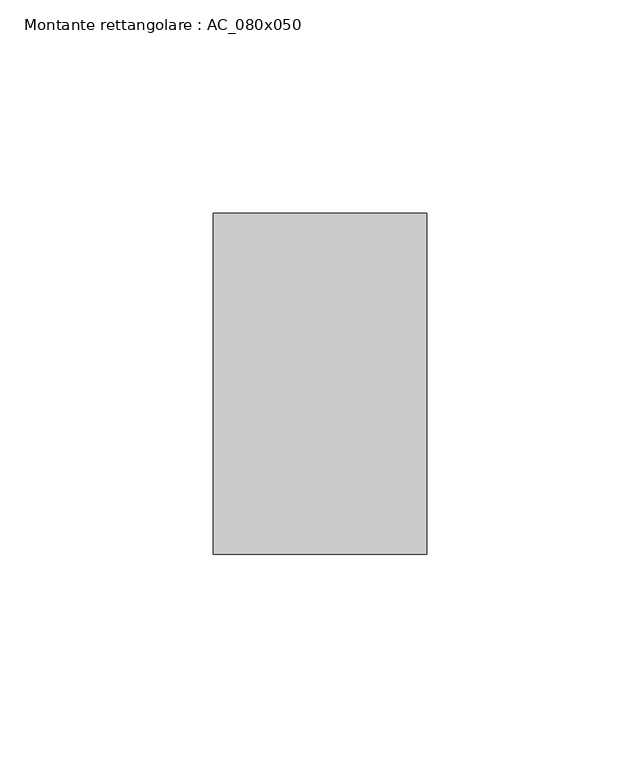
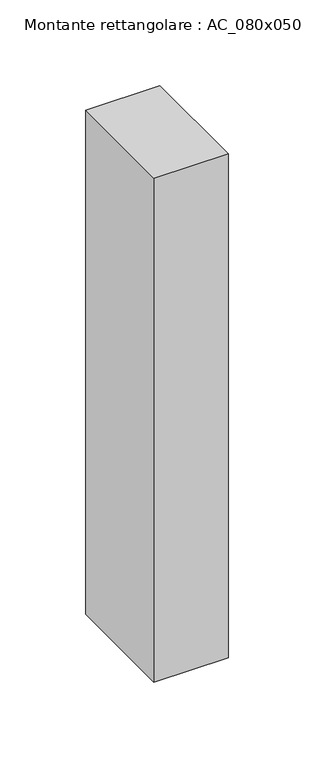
"""IFC4 building model written with IfcOpenShell, lengths in millimetres: member geometry, Montante rettangolare : AC_080x050."""

import ifcopenshell
import ifcopenshell.guid

model = None  # the IFC model being written
_history = None  # IfcOwnerHistory: only IFC2X3 demands one
_inside = {}  # id of a spatial element -> (the spatial element, [elements in it])
_under = {}  # id of a project, library or spatial element -> (it, [spatial elements below it])
_declared = {}  # id of a project -> (the project, [libraries it declares])
_typed = {}  # id of a type object -> (the type object, [elements of that type])
_made_of = {}  # id of a material, layer set ... -> (it, [elements and type objects made of it])


def new_model(schema):
    """Start an empty IFC model of exactly this schema.

    Asked for "IFC4X3", IfcOpenShell would pick the latest addendum, in which some entities
    have other attributes; the version numbers below select the first issue.
    IFC2X3 requires an IfcOwnerHistory on every rooted entity: one is made here for all.
    """
    global model, _history
    if schema == "IFC4X3":
        model = ifcopenshell.file(schema_version=(4, 3, 0, 0))
    else:
        model = ifcopenshell.file(schema=schema)
    _inside.clear()
    _under.clear()
    _declared.clear()
    _typed.clear()
    _made_of.clear()
    _history = None
    if model.schema == "IFC2X3":
        org = make("IfcOrganization", Name="unknown")
        user = make(
            "IfcPersonAndOrganization",
            ThePerson=make("IfcPerson", FamilyName="unknown"),
            TheOrganization=org,
        )
        app = make(
            "IfcApplication",
            ApplicationDeveloper=org,
            Version="unknown",
            ApplicationFullName="unknown",
            ApplicationIdentifier="unknown",
        )
        _history = make(
            "IfcOwnerHistory",
            OwningUser=user,
            OwningApplication=app,
            ChangeAction="ADDED",
            CreationDate=0,
        )
    return model


def make(cls, **values):
    """One entity of the class cls with the attributes given. An attribute that is None is left unset."""
    return model.create_entity(
        cls, **{name: value for name, value in values.items() if value is not None}
    )


def rooted(cls, **values):
    """An entity with a GlobalId (a new one), such as an element, a storey or a relation."""
    return make(cls, GlobalId=ifcopenshell.guid.new(), OwnerHistory=_history, **values)


def si_unit(unit_type, name, prefix=None):
    """IfcSIUnit, for example si_unit("LENGTHUNIT", "METRE", prefix="MILLI")."""
    return make("IfcSIUnit", UnitType=unit_type, Prefix=prefix, Name=name)


def assignment(units):
    """IfcUnitAssignment: the units of a project."""
    return None if units is None else make("IfcUnitAssignment", Units=units)


def point(xyz):
    """IfcCartesianPoint."""
    return None if xyz is None else make("IfcCartesianPoint", Coordinates=xyz)


def direction(xyz):
    """IfcDirection."""
    return None if xyz is None else make("IfcDirection", DirectionRatios=xyz)


def frame(location, z_axis=None, x_axis=None):
    """IfcAxis2Placement3D, a coordinate frame: its origin and axes. An axis left out is left unset."""
    return make(
        "IfcAxis2Placement3D",
        Location=point(location),
        Axis=direction(z_axis),
        RefDirection=direction(x_axis),
    )


def origin():
    """The frame at (0, 0, 0) with its axes left unset."""
    return frame((0.0, 0.0, 0.0))


def place(relative_to, where):
    """IfcLocalPlacement: puts the frame where relative to a parent placement (None: the world)."""
    return make(
        "IfcLocalPlacement", PlacementRelTo=relative_to, RelativePlacement=where
    )


def context(
    kind, dimensions, precision=None, world=None, true_north=None, identifier=None
):
    """IfcGeometricRepresentationContext, for example the 3D "Model" context."""
    return make(
        "IfcGeometricRepresentationContext",
        ContextIdentifier=identifier,
        ContextType=kind,
        CoordinateSpaceDimension=dimensions,
        Precision=precision,
        WorldCoordinateSystem=world,
        TrueNorth=true_north,
    )


def project(units=None, contexts=None):
    """IfcProject with its units and contexts."""
    return rooted(
        "IfcProject",
        Name="project",
        RepresentationContexts=contexts,
        UnitsInContext=assignment(units),
    )


def spatial(cls, under=None, at=None, **own):
    """A site, building, storey or space (cls), placed at a placement, below another one or the project."""
    s = rooted(cls, ObjectPlacement=at, **own)
    if under is not None:
        _under.setdefault(under.id(), (under, []))[1].append(s)
    return s


def polyline(points):
    """IfcPolyline through the points."""
    return make("IfcPolyline", Points=[point(p) for p in points])


def outline(outer, holes=None, kind="AREA"):
    """IfcArbitraryClosedProfileDef: a profile drawn as a closed curve; with holes, ...WithVoids."""
    if holes is None:
        return make("IfcArbitraryClosedProfileDef", ProfileType=kind, OuterCurve=outer)
    return make(
        "IfcArbitraryProfileDefWithVoids",
        ProfileType=kind,
        OuterCurve=outer,
        InnerCurves=holes,
    )


def extrude(swept, where, along, depth):
    """IfcExtrudedAreaSolid: the profile swept, set in the frame where, extruded along a direction by depth."""
    return make(
        "IfcExtrudedAreaSolid",
        SweptArea=swept,
        Position=where,
        ExtrudedDirection=direction(along),
        Depth=depth,
    )


def shape(context_of_items, identifier, shape_type, items):
    """IfcShapeRepresentation: the items that make up one representation, for example the "Body"."""
    return make(
        "IfcShapeRepresentation",
        ContextOfItems=context_of_items,
        RepresentationIdentifier=identifier,
        RepresentationType=shape_type,
        Items=items,
    )


def source(mapping_origin, context_of_items, identifier, shape_type, items):
    """IfcRepresentationMap: a shape defined once, which mapped items show again and again."""
    return make(
        "IfcRepresentationMap",
        MappingOrigin=mapping_origin,
        MappedRepresentation=shape(context_of_items, identifier, shape_type, items),
    )


def transform(
    local_origin,
    x_axis=None,
    y_axis=None,
    z_axis=None,
    scale=None,
    scale2=None,
    scale3=None,
    uniform=True,
):
    """IfcCartesianTransformationOperator3D, or its non-uniform kind. x_axis, y_axis, z_axis: its Axis1, 2, 3."""
    if uniform:
        return make(
            "IfcCartesianTransformationOperator3D",
            Axis1=direction(x_axis),
            Axis2=direction(y_axis),
            LocalOrigin=point(local_origin),
            Scale=scale,
            Axis3=direction(z_axis),
        )
    return make(
        "IfcCartesianTransformationOperator3DnonUniform",
        Axis1=direction(x_axis),
        Axis2=direction(y_axis),
        LocalOrigin=point(local_origin),
        Scale=scale,
        Axis3=direction(z_axis),
        Scale2=scale2,
        Scale3=scale3,
    )


def mapped(mapping_source, mapping_target):
    """IfcMappedItem: shows the shape of a source again, moved by a transform."""
    return make(
        "IfcMappedItem", MappingSource=mapping_source, MappingTarget=mapping_target
    )


def made_of(thing, what):
    """Note that an element or type object is made of a material, layer set ...; save() writes the relation."""
    if what is not None:
        _made_of.setdefault(what.id(), (what, []))[1].append(thing)
    return thing


def element(
    cls,
    number,
    at=None,
    inside=None,
    cuts=None,
    type_object=None,
    material=None,
    context=None,
    identifier="Body",
    shape_type=None,
    held_by="IfcProductDefinitionShape",
    body=None,
    shapes=None,
    **own,
):
    """One element of the class cls, such as IfcWall. Its Tag is "e" and its number.

    at: its placement. inside: the storey or other place that contains it. cuts: it is an
    opening in that element (IfcRelVoidsElement). A single representation is given by context,
    identifier, shape_type and body (its items); several are given by shapes. held_by: the class
    of the entity that holds the representations. save() writes the other relations.
    """
    e = rooted(cls, Tag="e%d" % number, ObjectPlacement=at, **own)
    if body is not None:
        shapes = [shape(context, identifier, shape_type, body)]
    if shapes is not None:
        e.Representation = make(held_by, Representations=shapes)
    if inside is not None:
        _inside.setdefault(inside.id(), (inside, []))[1].append(e)
    if cuts is not None:
        rooted(
            "IfcRelVoidsElement", RelatingBuildingElement=cuts, RelatedOpeningElement=e
        )
    if type_object is not None:
        _typed.setdefault(type_object.id(), (type_object, []))[1].append(e)
    return made_of(e, material)


def aggregate(whole, parts):
    """IfcRelAggregates: a whole, such as a stair, and the parts it consists of."""
    return rooted("IfcRelAggregates", RelatingObject=whole, RelatedObjects=parts)


def save(model, path):
    """Write the relations noted so far, then the file.

    IfcRelAggregates (storeys below a building ...), IfcRelContainedInSpatialStructure (elements
    in a storey), IfcRelDefinesByType, IfcRelAssociatesMaterial and IfcRelDeclares: one each for
    every whole, place, type object, material and project.
    """
    for whole, parts in _under.values():
        aggregate(whole, parts)
    for where, things in _inside.values():
        rooted(
            "IfcRelContainedInSpatialStructure",
            RelatedElements=things,
            RelatingStructure=where,
        )
    for kind, things in _typed.values():
        rooted("IfcRelDefinesByType", RelatedObjects=things, RelatingType=kind)
    for what, things in _made_of.values():
        rooted("IfcRelAssociatesMaterial", RelatedObjects=things, RelatingMaterial=what)
    for by, libraries in _declared.values():
        rooted("IfcRelDeclares", RelatingContext=by, RelatedDefinitions=libraries)
    model.write(path)


def montante_rettangolare_ac_080x050_0467c740(model_context):
    return source(origin(), model_context, "Body", "SweptSolid", [
        extrude(outline(polyline([(0.0, 40.0), (0.0, -40.0), (-50.0, -40.0), (-50.0, 40.0), (0.0, 40.0)])), frame((0.0, 0.0, -360.0), z_axis=(0.0, 0.0, 1.0), x_axis=(1.0, 0.0, 0.0)), (0.0, 0.0, 1.0), 360.0),
    ])


if __name__ == "__main__":
    model = new_model("IFC4")
    model_context = context("Model", 3, world=origin())
    ifc_project = project(units=[si_unit("LENGTHUNIT", "METRE", prefix="MILLI")], contexts=[model_context])
    site = spatial("IfcSite", under=ifc_project)
    building = spatial("IfcBuilding", under=site)
    placement = place(None, origin())
    montante_rettangolare_ac_080x050_shape = montante_rettangolare_ac_080x050_0467c740(model_context)
    element("IfcMember", 1, ObjectType="Montante rettangolare : AC_080x050", at=placement, inside=building, context=model_context, shape_type="MappedRepresentation", body=[
        mapped(montante_rettangolare_ac_080x050_shape, transform((0.0, 0.0, 0.0), x_axis=(1.0, 0.0, 0.0), y_axis=(0.0, 1.0, 0.0), z_axis=(0.0, 0.0, 1.0))),
    ])
    save(model, "model.ifc")
